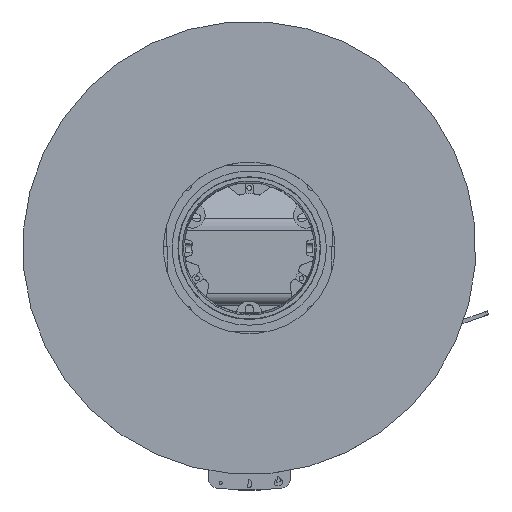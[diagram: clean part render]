
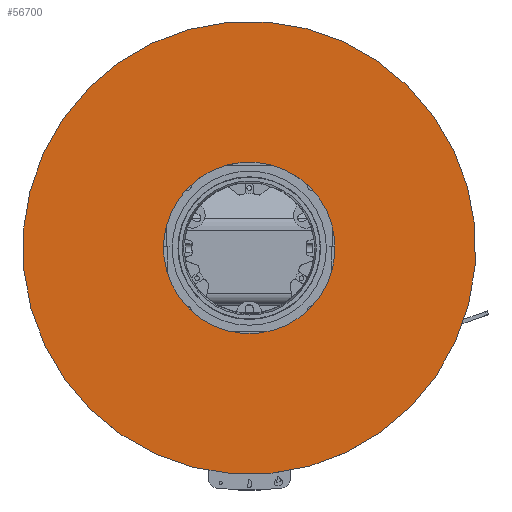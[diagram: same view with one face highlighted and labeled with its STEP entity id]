
A CAD part, top view. The second image highlights one B-rep face of the part: STEP entity #56700.
In plain terms, the highlighted planar face has unit normal (0, 0, 1).
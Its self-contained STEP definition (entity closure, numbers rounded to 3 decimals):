
#1367=FACE_BOUND('',#6346,.T.);
#1803=PLANE('',#59835);
#3287=FACE_OUTER_BOUND('',#6345,.T.);
#6345=EDGE_LOOP('',(#35844));
#6346=EDGE_LOOP('',(#35845));
#19389=CIRCLE('',#59830,89.);
#19391=CIRCLE('',#59833,235.);
#22122=VERTEX_POINT('',#81507);
#22124=VERTEX_POINT('',#81513);
#27508=EDGE_CURVE('',#22122,#22122,#19389,.T.);
#27511=EDGE_CURVE('',#22124,#22124,#19391,.T.);
#35844=ORIENTED_EDGE('',*,*,#27511,.T.);
#35845=ORIENTED_EDGE('',*,*,#27508,.T.);
#56700=ADVANCED_FACE('',(#3287,#1367),#1803,.T.);
#59830=AXIS2_PLACEMENT_3D('',#81509,#65467,#65468);
#59833=AXIS2_PLACEMENT_3D('',#81515,#65474,#65475);
#59835=AXIS2_PLACEMENT_3D('',#81517,#65478,#65479);
#65467=DIRECTION('center_axis',(0.,0.,
-1.));
#65468=DIRECTION('ref_axis',(-0.997,0.078,0.));
#65474=DIRECTION('center_axis',(0.,0.,
1.));
#65475=DIRECTION('ref_axis',(-0.997,0.078,0.));
#65478=DIRECTION('center_axis',(0.,0.,
1.));
#65479=DIRECTION('ref_axis',(-0.997,0.078,0.));
#81507=CARTESIAN_POINT('',(88.726,-6.983,613.));
#81509=CARTESIAN_POINT('Origin',(0.,0.,
613.));
#81513=CARTESIAN_POINT('',(234.276,-18.438,613.));
#81515=CARTESIAN_POINT('Origin',(0.,0.,
613.));
#81517=CARTESIAN_POINT('Origin',(0.,0.,
613.));
